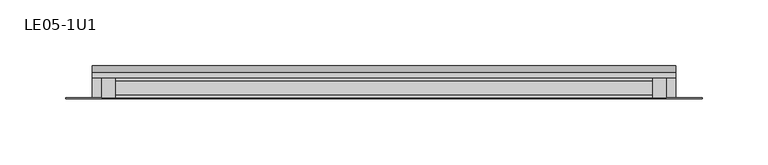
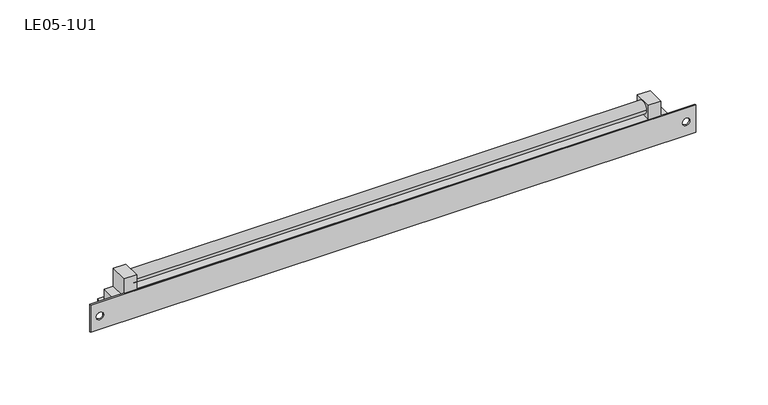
"""IFC4 building model written with IfcOpenShell, lengths in millimetres: proxy geometry, Осветительная панель : LE05-1U1."""

from ifc_helpers import new_model, si_unit, point, frame, frame_2d, origin, place, context, project, spatial, polyline, circle_curve, trimmed, segment, composite_curve, outline, extrude, source, transform, mapped, element, save
from ifc_brep_helpers import plane_surface, revolved_surface, advanced_brep


def le05_1u1_5d76734b(model_context):
    return source(origin(), model_context, "Body", "SolidModel", [
        extrude(outline(composite_curve([segment(trimmed(circle_curve(frame_2d((7.3197416, 29.25)), 5.0), [point((2.3197416, 29.25))], [point((12.3197416, 29.25))], False, "CARTESIAN"), True, "CONTINUOUS"), segment(trimmed(circle_curve(frame_2d((7.3197416, 29.25)), 5.0), [point((12.3197416, 29.25))], [point((2.3197416, 29.25))], False, "CARTESIAN"), True, "CONTINUOUS")], self_intersect=False)), frame((-203.7714127, 0.0, 0.0), z_axis=(1.0, 0.0, 0.0), x_axis=(0.0, 1.0, 0.0)), (0.0, 0.0, 1.0), 407.5428255),
        extrude(outline(polyline([(23.0, 203.7714127), (23.0, -203.7714127), (35.0707373, -203.7714127), (35.0707373, -213.7714127), (20.0, -213.7714127), (20.0, -221.0), (1.0, -221.0), (1.0, 221.0), (20.0, 221.0), (20.0, 213.7714127), (35.0707373, 213.7714127), (35.0707373, 203.7714127), (23.0, 203.7714127)])), frame((0.0, 0.0, 0.0), z_axis=(0.0, 1.0, 0.0), x_axis=(0.0, 0.0, 1.0)), (0.0, 0.0, 1.0), 14.6394833),
        advanced_brep(
        [(241.0, 0.0, 23.0), (-241.0, 0.0, 23.0), (-241.0, -1.0, 23.0), (241.0, -1.0, 23.0), (241.0, 0.0, 0.0), (241.0, -1.0, 0.0), (-241.0, -1.0, 0.0), (-241.0, 0.0, 0.0), (-221.0, 0.0, 0.0), (-221.0, 19.4142136, 0.0), (221.0, 19.4142136, 0.0), (221.0, 0.0, 0.0), (221.0, 0.0, 1.0), (-221.0, 0.0, 1.0), (-230.5581342, 0.0, 11.25), (-236.4927021, 0.0, 11.25), (236.4927021, 0.0, 11.25), (230.5581342, 0.0, 11.25), (-236.4927021, -1.0, 11.25), (-230.5581342, -1.0, 11.25), (230.5581342, -1.0, 11.25), (236.4927021, -1.0, 11.25), (221.0, 24.0, 6.0), (221.0, 19.0, 1.0), (221.0, 24.0, 4.5857864), (-221.0, 24.0, 6.0), (-221.0, 24.0, 4.5857864), (-221.0, 19.0, 1.0)],
        [
            (0, 1),
            (1, 2),
            (2, 3),
            (3, 0),
            (4, 5),
            (5, 6),
            (6, 7),
            (7, 8),
            (8, 9),
            (9, 10),
            (10, 11),
            (11, 4),
            (0, 4),
            (11, 12),
            (12, 13),
            (13, 8),
            (7, 1),
            (14, 15, circle_curve(frame((-233.5254182, 0.0, 11.25), z_axis=(0.0, -1.0, 0.0), x_axis=(-1.0, 0.0, 0.0)), 2.967284)),
            (15, 14, circle_curve(frame((-233.5254182, 0.0, 11.25), z_axis=(0.0, -1.0, 0.0), x_axis=(-1.0, 0.0, 0.0)), 2.967284)),
            (16, 17, circle_curve(frame((233.5254182, 0.0, 11.25), z_axis=(0.0, -1.0, 0.0), x_axis=(-1.0, 0.0, 0.0)), 2.967284)),
            (17, 16, circle_curve(frame((233.5254182, 0.0, 11.25), z_axis=(0.0, -1.0, 0.0), x_axis=(-1.0, 0.0, 0.0)), 2.967284)),
            (6, 2),
            (5, 3),
            (18, 19, circle_curve(frame((-233.5254182, -1.0, 11.25), z_axis=(0.0, 1.0, 0.0), x_axis=(-1.0, 0.0, 0.0)), 2.967284)),
            (19, 18, circle_curve(frame((-233.5254182, -1.0, 11.25), z_axis=(0.0, 1.0, 0.0), x_axis=(-1.0, 0.0, 0.0)), 2.967284)),
            (20, 21, circle_curve(frame((233.5254182, -1.0, 11.25), z_axis=(0.0, 1.0, 0.0), x_axis=(-1.0, 0.0, 0.0)), 2.967284)),
            (21, 20, circle_curve(frame((233.5254182, -1.0, 11.25), z_axis=(0.0, 1.0, 0.0), x_axis=(-1.0, 0.0, 0.0)), 2.967284)),
            (22, 23),
            (23, 12),
            (10, 24),
            (24, 22),
            (25, 26),
            (26, 9),
            (13, 27),
            (27, 25),
            (24, 26),
            (25, 22),
            (23, 27),
            (18, 15),
            (14, 19),
            (20, 17),
            (16, 21),
        ],
        [
            plane_surface(frame((-241.0, 0.0, 23.0), z_axis=(0.0, 0.0, 1.0), x_axis=(-1.0, 0.0, 0.0))),
            plane_surface(frame((-241.0, 0.0, 0.0), z_axis=(0.0, 0.0, -1.0), x_axis=(1.0, 0.0, 0.0))),
            plane_surface(frame((241.0, 0.0, 23.0), z_axis=(0.0, 1.0, 0.0), x_axis=(0.0, 0.0, -1.0))),
            plane_surface(frame((-241.0, 0.0, 23.0), z_axis=(-1.0, 0.0, 0.0), x_axis=(0.0, 0.0, -1.0))),
            plane_surface(frame((-241.0, -1.0, 23.0), z_axis=(0.0, -1.0, 0.0), x_axis=(0.0, 0.0, -1.0))),
            plane_surface(frame((241.0, -1.0, 23.0), z_axis=(1.0, 0.0, 0.0), x_axis=(0.0, 0.0, -1.0))),
            plane_surface(frame((221.0, 19.0, 1.0), z_axis=(1.0, 0.0, 0.0), x_axis=(0.0, -0.7071067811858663, -0.7071067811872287))),
            plane_surface(frame((-221.0, 19.0, 1.0), z_axis=(-1.0, 0.0, 0.0), x_axis=(0.0, 0.7071067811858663, 0.7071067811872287))),
            plane_surface(frame((221.0, 24.0, 4.5857864), z_axis=(0.0, 1.0, 0.0), x_axis=(-1.0, 0.0, 0.0))),
            plane_surface(frame((221.0, 19.0, 1.0), z_axis=(0.0, 0.0, 1.0), x_axis=(-1.0, 0.0, 0.0))),
            revolved_surface(polyline([(-236.4927022, -1.0, 11.25), (-236.4927022, 0.0, 11.25)]), (-233.5254182, 0.0, 11.25), (0.0, -1.0, 0.0)),
            revolved_surface(polyline([(230.55813419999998, -1.0, 11.25), (230.55813419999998, 0.0, 11.25)]), (233.5254182, -1.0, 11.25), (0.0, -1.0, 0.0)),
            plane_surface(frame((221.0, 24.0, 6.0), z_axis=(0.0, -0.7071067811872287, 0.7071067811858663), x_axis=(-1.0, 0.0, 0.0))),
            plane_surface(frame((221.0, 19.4142136, 0.0), z_axis=(0.0, 0.7071067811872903, -0.7071067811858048), x_axis=(-1.0, 0.0, 0.0))),
        ],
        [
            (0, [[1, 2, 3, 4]]),
            (1, [[5, 6, 7, 8, 9, 10, 11, 12]]),
            (2, [[-1, 13, -12, 14, 15, 16, -8, 17], [18, 19], [20, 21]]),
            (3, [[-2, -17, -7, 22]]),
            (4, [[-3, -22, -6, 23], [24, 25], [26, 27]]),
            (5, [[-4, -23, -5, -13]]),
            (6, [[28, 29, -14, -11, 30, 31]]),
            (7, [[32, 33, -9, -16, 34, 35]]),
            (8, [[-31, 36, -32, 37]]),
            (9, [[-29, 38, -34, -15]]),
            (10, [[39, -18, 40, -24]]),
            (10, [[-39, -25, -40, -19]]),
            (11, [[41, -20, 42, -26]]),
            (11, [[-41, -27, -42, -21]]),
            (12, [[-28, -37, -35, -38]]),
            (13, [[-30, -10, -33, -36]]),
        ],
    ),
    ])


if __name__ == "__main__":
    model = new_model("IFC4")
    model_context = context("Model", 3, world=origin())
    ifc_project = project(units=[si_unit("LENGTHUNIT", "METRE", prefix="MILLI")], contexts=[model_context])
    site = spatial("IfcSite", under=ifc_project)
    building = spatial("IfcBuilding", under=site)
    placement = place(None, origin())
    le05_1u1_shape = le05_1u1_5d76734b(model_context)
    element("IfcBuildingElementProxy", 1, Name="Осветительная панель : LE05-1U1", ObjectType="Осветительная панель : LE05-1U1", at=placement, inside=building, context=model_context, shape_type="MappedRepresentation", body=[
        mapped(le05_1u1_shape, transform((0.0, 0.0, 0.0), x_axis=(1.0, 0.0, 0.0), y_axis=(0.0, 1.0, 0.0), z_axis=(0.0, 0.0, 1.0))),
    ])
    save(model, "model.ifc")
